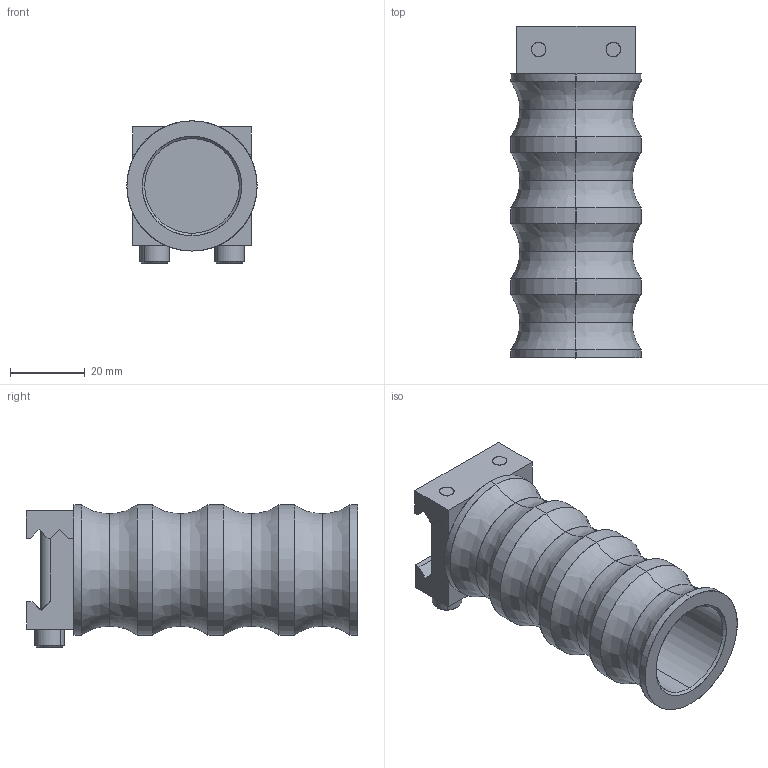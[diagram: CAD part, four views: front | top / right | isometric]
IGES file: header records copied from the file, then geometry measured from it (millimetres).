
Start section: SolidWorks IGES file using analytic representation for surfaces
Global section: file name: C:\Users\Shane\Desktop\ForeGrip.IGS; native system: SolidWorks 2011; preprocessor: SolidWorks 2011; author: Shane; date: 120602.155343; units: inch
Bounding box: 34.92 x 89.03 x 38.16 mm (x, y, z)
Surface area: 20420.8 mm2 (no closed solid volume)
Topology: 0 solids, 0 shells, 135 faces, 1382 edges, 1378 vertices
Faces by surface type: bspline 89, revolution 46
